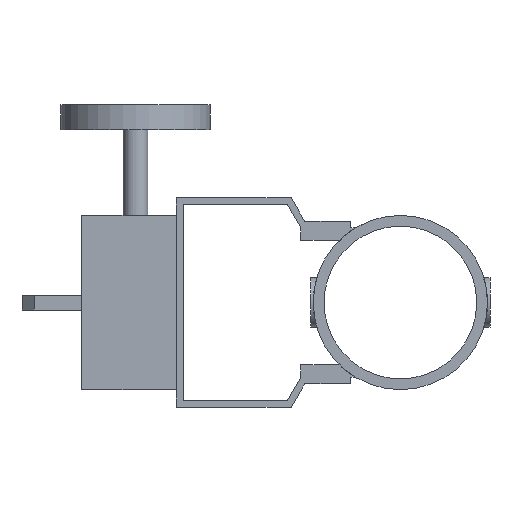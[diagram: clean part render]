
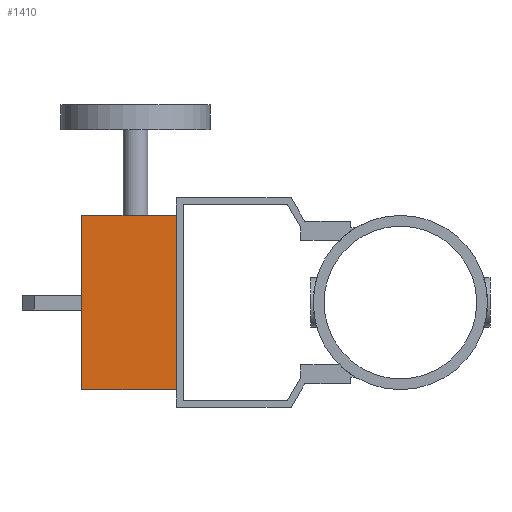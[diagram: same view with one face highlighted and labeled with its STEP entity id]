
A CAD part, left-side view. The second image highlights one B-rep face of the part: STEP entity #1410.
In plain terms, the highlighted planar face has unit normal (-1, 0, 0).
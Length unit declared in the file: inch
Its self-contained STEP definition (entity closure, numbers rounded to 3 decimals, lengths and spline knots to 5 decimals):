
#167=FACE_OUTER_BOUND('',#247,.T.);
#247=EDGE_LOOP('',(#1081,#1082,#1083,#1084));
#368=LINE('',#2301,#503);
#377=LINE('',#2318,#512);
#379=LINE('',#2322,#514);
#380=LINE('',#2323,#515);
#503=VECTOR('',#1804,0.3937);
#512=VECTOR('',#1819,0.3937);
#514=VECTOR('',#1823,0.3937);
#515=VECTOR('',#1824,0.3937);
#647=VERTEX_POINT('',#2298);
#648=VERTEX_POINT('',#2300);
#653=VERTEX_POINT('',#2316);
#654=VERTEX_POINT('',#2321);
#804=EDGE_CURVE('',#647,#648,#368,.T.);
#813=EDGE_CURVE('',#647,#653,#377,.T.);
#815=EDGE_CURVE('',#654,#653,#379,.T.);
#816=EDGE_CURVE('',#648,#654,#380,.T.);
#1081=ORIENTED_EDGE('',*,*,#804,.F.);
#1082=ORIENTED_EDGE('',*,*,#813,.T.);
#1083=ORIENTED_EDGE('',*,*,#815,.F.);
#1084=ORIENTED_EDGE('',*,*,#816,.F.);
#1274=PLANE('',#1531);
#1410=ADVANCED_FACE('',(#167),#1274,.T.);
#1531=AXIS2_PLACEMENT_3D('',#2320,#1821,#1822);
#1804=DIRECTION('',(0.,0.,-1.));
#1819=DIRECTION('',(0.,1.,0.));
#1821=DIRECTION('center_axis',(-1.,0.,0.));
#1822=DIRECTION('ref_axis',(0.,0.,1.));
#1823=DIRECTION('',(0.,0.,1.));
#1824=DIRECTION('',(0.,1.,0.));
#2298=CARTESIAN_POINT('',(-1.5,4.5,1.75));
#2300=CARTESIAN_POINT('',(-1.5,4.5,-1.75));
#2301=CARTESIAN_POINT('',(-1.5,4.5,1.75));
#2316=CARTESIAN_POINT('',(-1.5,6.4,1.75));
#2318=CARTESIAN_POINT('',(-1.5,4.5,1.75));
#2320=CARTESIAN_POINT('Origin',(-1.5,4.5,-1.75));
#2321=CARTESIAN_POINT('',(-1.5,6.4,-1.75));
#2322=CARTESIAN_POINT('',(-1.5,6.4,1.75));
#2323=CARTESIAN_POINT('',(-1.5,4.5,-1.75));
